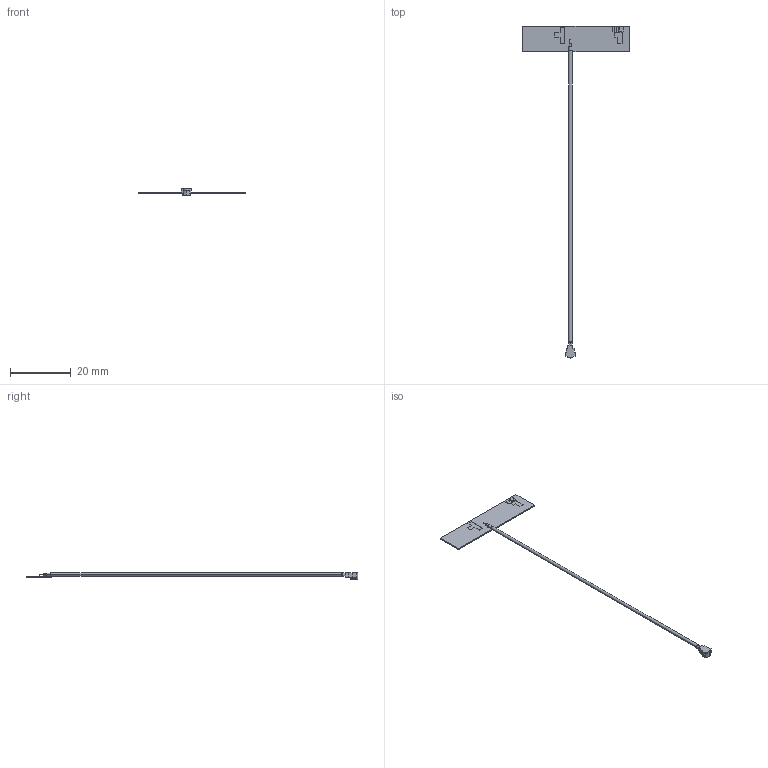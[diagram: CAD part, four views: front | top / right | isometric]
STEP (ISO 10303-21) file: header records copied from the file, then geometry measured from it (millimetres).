
FILE_DESCRIPTION((''),'2;1');
FILE_NAME('1001932PT-AA10L0100_ASM','2017-12-07T',('fsanchez'),(''),'CREO PARAMETRIC BY PTC INC, 2016130','CREO PARAMETRIC BY PTC INC, 2016130','');
FILE_SCHEMA(('CONFIG_CONTROL_DESIGN','GEOMETRIC_VALIDATION_PROPERTIES_MIM'));
Length unit declared in the file: millimetre
Products named in the file (5): 1001932PT; 1003163-AA10L0100; HIROSE_COAXIAL; 1003163-AA10L0100_ASM; 1001932PT-AA10L0100_ASM
Assembly tree (4 placements, depth 3):
  1001932PT-AA10L0100_ASM
    1001932PT
    1003163-AA10L0100_ASM
      1003163-AA10L0100
      HIROSE_COAXIAL
Bounding box: 35.2 x 109.75 x 2.1 mm (x, y, z)
Volume: 230.6 mm3; surface area: 1051.6 mm2
Topology: 3 solids, 3 shells, 88 faces, 215 edges, 144 vertices
Faces by surface type: plane 70, cylinder 18
Entity records: 3663 total; most frequent: CARTESIAN_POINT 470, DIRECTION 452, ORIENTED_EDGE 430, PRESENTATION_STYLE_ASSIGNMENT 227, STYLED_ITEM 218, CURVE_STYLE 215, EDGE_CURVE 215, VECTOR 176
